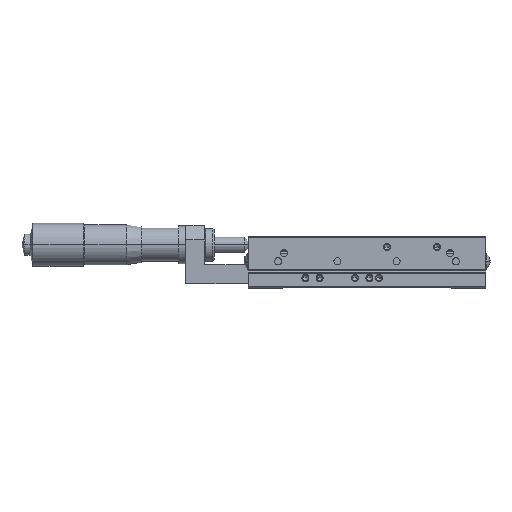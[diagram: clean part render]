
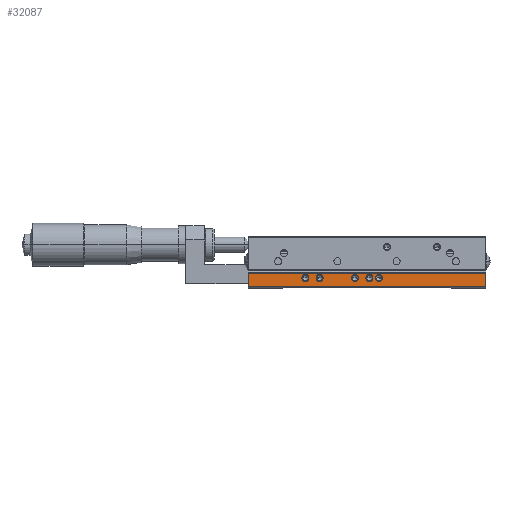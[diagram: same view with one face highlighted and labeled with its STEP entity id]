
A CAD part, left-side view. The second image highlights one B-rep face of the part: STEP entity #32087.
In plain terms, the highlighted planar face has unit normal (-1, 0, 0).
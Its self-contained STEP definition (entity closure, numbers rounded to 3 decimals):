
#4990 = VERTEX_POINT ( 'NONE', #24454 ) ;
#5005 = EDGE_CURVE ( 'NONE', #5057, #5006, #24531, .T. ) ;
#5006 = VERTEX_POINT ( 'NONE', #24523 ) ;
#5057 = VERTEX_POINT ( 'NONE', #24897 ) ;
#5061 = EDGE_CURVE ( 'NONE', #4990, #5062, #24895, .T. ) ;
#5062 = VERTEX_POINT ( 'NONE', #25126 ) ;
#5078 = VERTEX_POINT ( 'NONE', #25023 ) ;
#5080 = EDGE_CURVE ( 'NONE', #5078, #5081, #25018, .T. ) ;
#5081 = VERTEX_POINT ( 'NONE', #25010 ) ;
#5131 = VERTEX_POINT ( 'NONE', #24881 ) ;
#5176 = VERTEX_POINT ( 'NONE', #25215 ) ;
#5178 = EDGE_CURVE ( 'NONE', #5176, #5179, #25209, .T. ) ;
#5179 = VERTEX_POINT ( 'NONE', #25488 ) ;
#5215 = EDGE_CURVE ( 'NONE', #5131, #5216, #25575, .T. ) ;
#5216 = VERTEX_POINT ( 'NONE', #25570 ) ;
#5411 = VERTEX_POINT ( 'NONE', #25617 ) ;
#5413 = EDGE_CURVE ( 'NONE', #5411, #5414, #25616, .T. ) ;
#5414 = VERTEX_POINT ( 'NONE', #25612 ) ;
#9281 = CARTESIAN_POINT ( 'NONE',  ( -50., -50., 0.8 ) ) ;
#9282 = DIRECTION ( 'NONE',  ( 0., 0., 1. ) ) ;
#9283 = VECTOR ( 'NONE', #9282, 1000. ) ;
#9284 = CARTESIAN_POINT ( 'NONE',  ( -50., -50., 0.8 ) ) ;
#9285 = LINE ( 'NONE', #9284, #9283 ) ;
#9286 = CARTESIAN_POINT ( 'NONE',  ( -50., -50., 6.5 ) ) ;
#24454 = CARTESIAN_POINT ( 'NONE',  ( -50., 27.5, 4.5 ) ) ;
#24523 = CARTESIAN_POINT ( 'NONE',  ( -50., 18.5, 4.5 ) ) ;
#24524 = DIRECTION ( 'NONE',  ( 0., -1., 0. ) ) ;
#24526 = DIRECTION ( 'NONE',  ( -1., 0., 0. ) ) ;
#24528 = CARTESIAN_POINT ( 'NONE',  ( -50., 20., 4.5 ) ) ;
#24529 = AXIS2_PLACEMENT_3D ( 'NONE', #24528, #24526, #24524 ) ;
#24531 = CIRCLE ( 'NONE', #24529, 1.5 ) ;
#24881 = CARTESIAN_POINT ( 'NONE',  ( -50., 0.5, 4.5 ) ) ;
#24895 = CIRCLE ( 'NONE', #24903, 1.5 ) ;
#24897 = CARTESIAN_POINT ( 'NONE',  ( -50., 21.5, 4.5 ) ) ;
#24899 = DIRECTION ( 'NONE',  ( -1., 0., 0. ) ) ;
#24901 = CARTESIAN_POINT ( 'NONE',  ( -50., 26., 4.5 ) ) ;
#24903 = AXIS2_PLACEMENT_3D ( 'NONE', #24901, #24899, #25128 ) ;
#25010 = CARTESIAN_POINT ( 'NONE',  ( -50., -6.5, 4.5 ) ) ;
#25012 = DIRECTION ( 'NONE',  ( 0., -1., 0. ) ) ;
#25014 = DIRECTION ( 'NONE',  ( -1., 0., 0. ) ) ;
#25015 = CARTESIAN_POINT ( 'NONE',  ( -50., -5., 4.5 ) ) ;
#25016 = AXIS2_PLACEMENT_3D ( 'NONE', #25015, #25014, #25012 ) ;
#25018 = CIRCLE ( 'NONE', #25016, 1.5 ) ;
#25023 = CARTESIAN_POINT ( 'NONE',  ( -50., -3.5, 4.5 ) ) ;
#25126 = CARTESIAN_POINT ( 'NONE',  ( -50., 24.5, 4.5 ) ) ;
#25128 = DIRECTION ( 'NONE',  ( 0., -1., 0. ) ) ;
#25202 = DIRECTION ( 'NONE',  ( 0., -1., 0. ) ) ;
#25204 = DIRECTION ( 'NONE',  ( -1., 0., 0. ) ) ;
#25206 = CARTESIAN_POINT ( 'NONE',  ( -50., 5., 4.5 ) ) ;
#25207 = AXIS2_PLACEMENT_3D ( 'NONE', #25206, #25204, #25202 ) ;
#25209 = CIRCLE ( 'NONE', #25207, 1.5 ) ;
#25215 = CARTESIAN_POINT ( 'NONE',  ( -50., 6.5, 4.5 ) ) ;
#25488 = CARTESIAN_POINT ( 'NONE',  ( -50., 3.5, 4.5 ) ) ;
#25570 = CARTESIAN_POINT ( 'NONE',  ( -50., -2.5, 4.5 ) ) ;
#25571 = DIRECTION ( 'NONE',  ( 0., -1., 0. ) ) ;
#25572 = DIRECTION ( 'NONE',  ( -1., 0., 0. ) ) ;
#25573 = CARTESIAN_POINT ( 'NONE',  ( -50., -1., 4.5 ) ) ;
#25574 = AXIS2_PLACEMENT_3D ( 'NONE', #25573, #25572, #25571 ) ;
#25575 = CIRCLE ( 'NONE', #25574, 1.5 ) ;
#25612 = CARTESIAN_POINT ( 'NONE',  ( -50., 50., 6.5 ) ) ;
#25613 = DIRECTION ( 'NONE',  ( 0., 0., 1. ) ) ;
#25614 = VECTOR ( 'NONE', #25613, 1000. ) ;
#25615 = CARTESIAN_POINT ( 'NONE',  ( -50., 50., 0.8 ) ) ;
#25616 = LINE ( 'NONE', #25615, #25614 ) ;
#25617 = CARTESIAN_POINT ( 'NONE',  ( -50., 50., 0.8 ) ) ;
#31582 = VERTEX_POINT ( 'NONE', #9286 ) ;
#31584 = EDGE_CURVE ( 'NONE', #31585, #31582, #9285, .T. ) ;
#31585 = VERTEX_POINT ( 'NONE', #9281 ) ;
#32053 = EDGE_CURVE ( 'NONE', #31585, #5411, #35097, .T. ) ;
#32056 = EDGE_LOOP ( 'NONE', ( #32091, #32095 ) ) ;
#32058 = ORIENTED_EDGE ( 'NONE', *, *, #5178, .F. ) ;
#32060 = EDGE_LOOP ( 'NONE', ( #32062, #32066 ) ) ;
#32062 = ORIENTED_EDGE ( 'NONE', *, *, #32064, .F. ) ;
#32064 = EDGE_CURVE ( 'NONE', #5006, #5057, #35325, .T. ) ;
#32066 = ORIENTED_EDGE ( 'NONE', *, *, #5005, .F. ) ;
#32068 = EDGE_LOOP ( 'NONE', ( #32069, #32074 ) ) ;
#32069 = ORIENTED_EDGE ( 'NONE', *, *, #32071, .F. ) ;
#32071 = EDGE_CURVE ( 'NONE', #5062, #4990, #33748, .T. ) ;
#32074 = ORIENTED_EDGE ( 'NONE', *, *, #5061, .F. ) ;
#32075 = EDGE_LOOP ( 'NONE', ( #32078, #32081, #32152, #32155 ) ) ;
#32078 = ORIENTED_EDGE ( 'NONE', *, *, #5413, .F. ) ;
#32081 = ORIENTED_EDGE ( 'NONE', *, *, #32053, .F. ) ;
#32087 = ADVANCED_FACE ( 'NONE', ( #36802, #36548, #36690, #36688, #36774, #36772 ), #36766, .T. ) ;
#32091 = ORIENTED_EDGE ( 'NONE', *, *, #32093, .F. ) ;
#32093 = EDGE_CURVE ( 'NONE', #5081, #5078, #34931, .T. ) ;
#32095 = ORIENTED_EDGE ( 'NONE', *, *, #5080, .F. ) ;
#32096 = EDGE_LOOP ( 'NONE', ( #32099, #32103 ) ) ;
#32099 = ORIENTED_EDGE ( 'NONE', *, *, #32101, .F. ) ;
#32101 = EDGE_CURVE ( 'NONE', #5216, #5131, #37156, .T. ) ;
#32103 = ORIENTED_EDGE ( 'NONE', *, *, #5215, .F. ) ;
#32104 = EDGE_LOOP ( 'NONE', ( #32107, #32058 ) ) ;
#32107 = ORIENTED_EDGE ( 'NONE', *, *, #32109, .F. ) ;
#32109 = EDGE_CURVE ( 'NONE', #5179, #5176, #37552, .T. ) ;
#32152 = ORIENTED_EDGE ( 'NONE', *, *, #31584, .T. ) ;
#32155 = ORIENTED_EDGE ( 'NONE', *, *, #32197, .T. ) ;
#32197 = EDGE_CURVE ( 'NONE', #31582, #5414, #39539, .T. ) ;
#33739 = VECTOR ( 'NONE', #33750, 1000. ) ;
#33748 = CIRCLE ( 'NONE', #33883, 1.5 ) ;
#33750 = DIRECTION ( 'NONE',  ( 0., 1., 0. ) ) ;
#33883 = AXIS2_PLACEMENT_3D ( 'NONE', #34906, #34776, #34653 ) ;
#34650 = DIRECTION ( 'NONE',  ( 0., -1., 0. ) ) ;
#34653 = DIRECTION ( 'NONE',  ( 0., -1., 0. ) ) ;
#34776 = DIRECTION ( 'NONE',  ( -1., 0., 0. ) ) ;
#34785 = DIRECTION ( 'NONE',  ( -1., 0., 0. ) ) ;
#34787 = CARTESIAN_POINT ( 'NONE',  ( -50., -5., 4.5 ) ) ;
#34797 = AXIS2_PLACEMENT_3D ( 'NONE', #34787, #34785, #34650 ) ;
#34906 = CARTESIAN_POINT ( 'NONE',  ( -50., 26., 4.5 ) ) ;
#34931 = CIRCLE ( 'NONE', #34797, 1.5 ) ;
#35095 = CARTESIAN_POINT ( 'NONE',  ( -50., -50., 0.8 ) ) ;
#35097 = LINE ( 'NONE', #35095, #33739 ) ;
#35318 = DIRECTION ( 'NONE',  ( 0., -1., 0. ) ) ;
#35320 = DIRECTION ( 'NONE',  ( -1., 0., 0. ) ) ;
#35322 = CARTESIAN_POINT ( 'NONE',  ( -50., 20., 4.5 ) ) ;
#35324 = AXIS2_PLACEMENT_3D ( 'NONE', #35322, #35320, #35318 ) ;
#35325 = CIRCLE ( 'NONE', #35324, 1.5 ) ;
#36527 = DIRECTION ( 'NONE',  ( 0., 1., 0. ) ) ;
#36528 = DIRECTION ( 'NONE',  ( -1., 0., 0. ) ) ;
#36530 = CARTESIAN_POINT ( 'NONE',  ( -50., -50., 0.8 ) ) ;
#36532 = AXIS2_PLACEMENT_3D ( 'NONE', #36530, #36528, #36527 ) ;
#36548 = FACE_BOUND ( 'NONE', #32096, .T. ) ;
#36688 = FACE_BOUND ( 'NONE', #32060, .T. ) ;
#36690 = FACE_BOUND ( 'NONE', #32104, .T. ) ;
#36766 = PLANE ( 'NONE',  #36532 ) ;
#36772 = FACE_OUTER_BOUND ( 'NONE', #32075, .T. ) ;
#36774 = FACE_BOUND ( 'NONE', #32068, .T. ) ;
#36802 = FACE_BOUND ( 'NONE', #32056, .T. ) ;
#37156 = CIRCLE ( 'NONE', #37259, 1.5 ) ;
#37188 = DIRECTION ( 'NONE',  ( 0., -1., 0. ) ) ;
#37190 = DIRECTION ( 'NONE',  ( -1., 0., 0. ) ) ;
#37259 = AXIS2_PLACEMENT_3D ( 'NONE', #37348, #37190, #37188 ) ;
#37348 = CARTESIAN_POINT ( 'NONE',  ( -50., -1., 4.5 ) ) ;
#37497 = CARTESIAN_POINT ( 'NONE',  ( -50., 5., 4.5 ) ) ;
#37552 = CIRCLE ( 'NONE', #37677, 1.5 ) ;
#37583 = DIRECTION ( 'NONE',  ( -1., 0., 0. ) ) ;
#37615 = DIRECTION ( 'NONE',  ( 0., -1., 0. ) ) ;
#37677 = AXIS2_PLACEMENT_3D ( 'NONE', #37497, #37583, #37615 ) ;
#39539 = LINE ( 'NONE', #39616, #39615 ) ;
#39614 = DIRECTION ( 'NONE',  ( 0., 1., 0. ) ) ;
#39615 = VECTOR ( 'NONE', #39614, 1000. ) ;
#39616 = CARTESIAN_POINT ( 'NONE',  ( -50., -50., 6.5 ) ) ;
